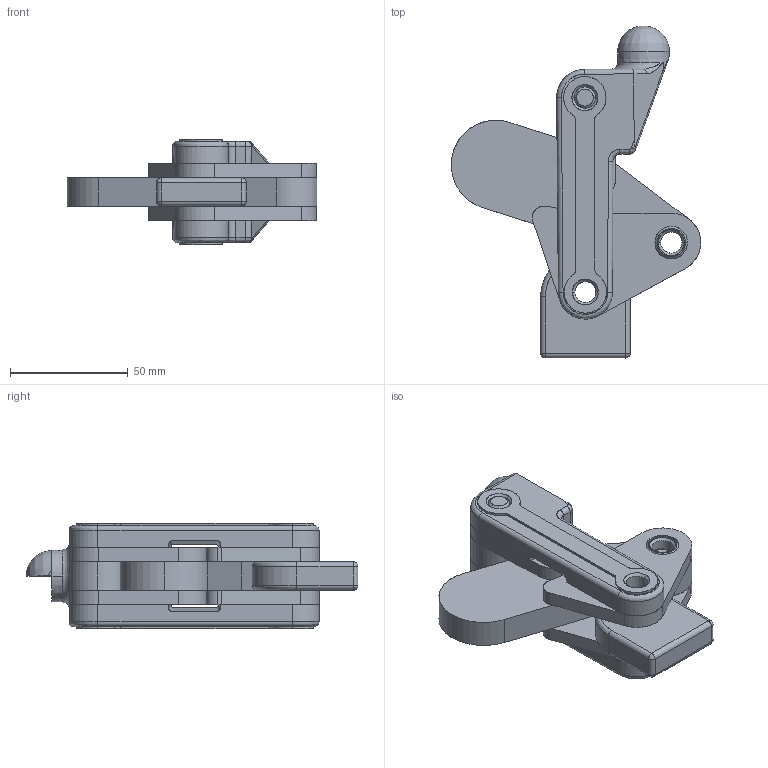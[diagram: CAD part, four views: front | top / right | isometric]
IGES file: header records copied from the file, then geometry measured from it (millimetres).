
Start section: SolidWorks IGES file using analytic representation for surfaces
Global section: file name: D:\GH Files\GH-SW-FILES\GH7\71210,71215,71220,71225\71210\71210.IGS; native system: SolidWorks 2006 by SolidWorks Corporation; preprocessor: SolidWorks 2006 by SolidWorks Corporation; author: Administrator; date: 060705.162550; units: millimetre
Bounding box: 105.98 x 141.07 x 45 mm (x, y, z)
Surface area: 60232.9 mm2 (no closed solid volume)
Topology: 0 solids, 0 shells, 507 faces, 5444 edges, 5438 vertices
Faces by surface type: revolution 279, bspline 228
